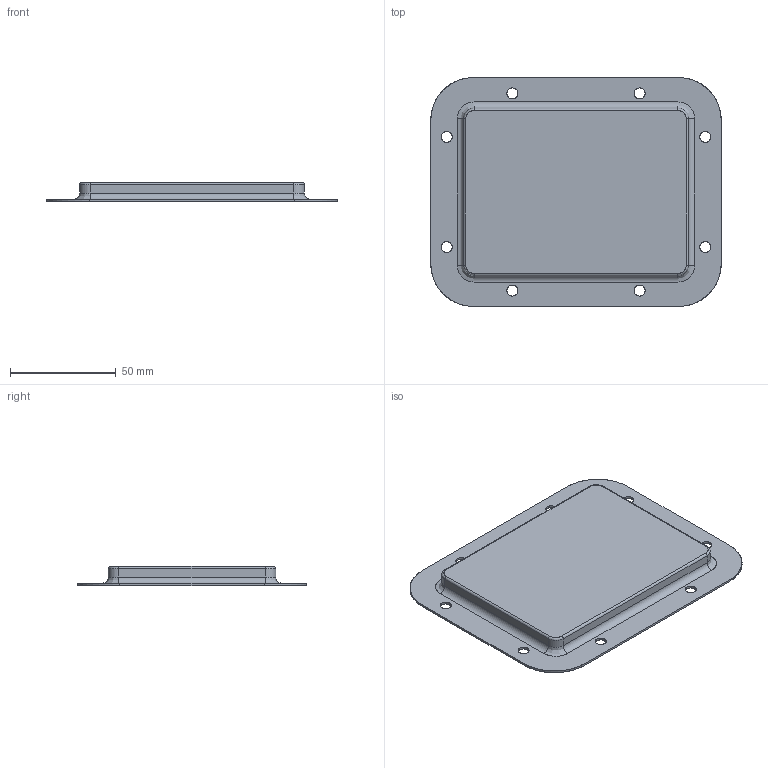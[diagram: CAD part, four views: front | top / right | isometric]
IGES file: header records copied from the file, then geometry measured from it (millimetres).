
Start section: SolidWorks IGES FILE using analytic representation for surfaces
Global section: file name: C:\Documents and Settings\lecoutey\Bureau\PR 1305\1040.010.00.IGS; native system: SolidWorks 2004 by SolidWorks Corporation; preprocessor: Version 5.3; author: lecoutey; date: 050408.172007; units: millimetre
Bounding box: 137 x 108 x 9 mm (x, y, z)
Surface area: 33664.7 mm2 (no closed solid volume)
Topology: 0 solids, 0 shells, 68 faces, 984 edges, 984 vertices
Faces by surface type: revolution 40, bspline 28
